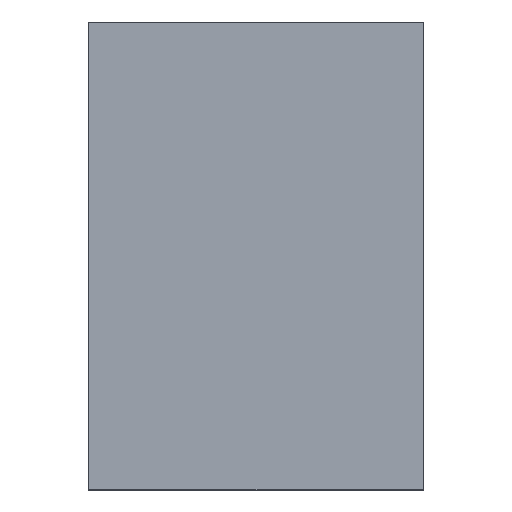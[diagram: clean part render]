
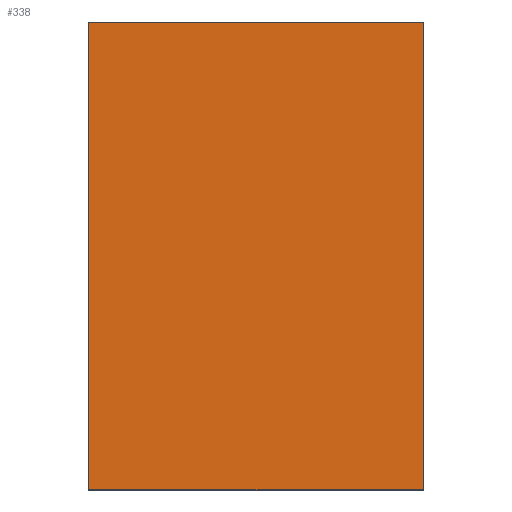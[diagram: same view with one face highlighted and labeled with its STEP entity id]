
A CAD part, top view. The second image highlights one B-rep face of the part: STEP entity #338.
In plain terms, the highlighted planar face has unit normal (0, 0, 1).
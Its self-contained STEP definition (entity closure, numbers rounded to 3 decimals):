
#24 = VERTEX_POINT('',#25);
#25 = CARTESIAN_POINT('',(106.5,96.913,249.));
#32 = PLANE('',#33);
#33 = AXIS2_PLACEMENT_3D('',#34,#35,#36);
#34 = CARTESIAN_POINT('',(106.5,96.913,229.));
#35 = DIRECTION('',(1.,0.,-0.));
#36 = DIRECTION('',(0.,0.,1.));
#44 = PLANE('',#45);
#45 = AXIS2_PLACEMENT_3D('',#46,#47,#48);
#46 = CARTESIAN_POINT('',(106.5,96.913,229.));
#47 = DIRECTION('',(-0.,1.,0.));
#48 = DIRECTION('',(0.,0.,1.));
#85 = VERTEX_POINT('',#86);
#86 = CARTESIAN_POINT('',(106.5,138.913,249.));
#100 = PLANE('',#101);
#101 = AXIS2_PLACEMENT_3D('',#102,#103,#104);
#102 = CARTESIAN_POINT('',(106.5,138.913,229.));
#103 = DIRECTION('',(-0.,1.,0.));
#104 = DIRECTION('',(0.,0.,1.));
#112 = EDGE_CURVE('',#24,#85,#113,.T.);
#113 = SURFACE_CURVE('',#114,(#118,#125),.PCURVE_S1.);
#114 = LINE('',#115,#116);
#115 = CARTESIAN_POINT('',(106.5,96.913,249.));
#116 = VECTOR('',#117,1.);
#117 = DIRECTION('',(-0.,1.,0.));
#118 = PCURVE('',#32,#119);
#119 = DEFINITIONAL_REPRESENTATION('',(#120),#124);
#120 = LINE('',#121,#122);
#121 = CARTESIAN_POINT('',(20.,0.));
#122 = VECTOR('',#123,1.);
#123 = DIRECTION('',(0.,-1.));
#124 = ( GEOMETRIC_REPRESENTATION_CONTEXT(2) 
PARAMETRIC_REPRESENTATION_CONTEXT() REPRESENTATION_CONTEXT('2D SPACE',''
  ) );
#125 = PCURVE('',#126,#131);
#126 = PLANE('',#127);
#127 = AXIS2_PLACEMENT_3D('',#128,#129,#130);
#128 = CARTESIAN_POINT('',(106.5,96.913,249.));
#129 = DIRECTION('',(0.,0.,1.));
#130 = DIRECTION('',(1.,0.,-0.));
#131 = DEFINITIONAL_REPRESENTATION('',(#132),#136);
#132 = LINE('',#133,#134);
#133 = CARTESIAN_POINT('',(0.,0.));
#134 = VECTOR('',#135,1.);
#135 = DIRECTION('',(0.,1.));
#136 = ( GEOMETRIC_REPRESENTATION_CONTEXT(2) 
PARAMETRIC_REPRESENTATION_CONTEXT() REPRESENTATION_CONTEXT('2D SPACE',''
  ) );
#144 = VERTEX_POINT('',#145);
#145 = CARTESIAN_POINT('',(136.5,96.913,249.));
#152 = PLANE('',#153);
#153 = AXIS2_PLACEMENT_3D('',#154,#155,#156);
#154 = CARTESIAN_POINT('',(136.5,96.913,229.));
#155 = DIRECTION('',(1.,0.,-0.));
#156 = DIRECTION('',(0.,0.,1.));
#195 = VERTEX_POINT('',#196);
#196 = CARTESIAN_POINT('',(136.5,138.913,249.));
#217 = EDGE_CURVE('',#144,#195,#218,.T.);
#218 = SURFACE_CURVE('',#219,(#223,#230),.PCURVE_S1.);
#219 = LINE('',#220,#221);
#220 = CARTESIAN_POINT('',(136.5,96.913,249.));
#221 = VECTOR('',#222,1.);
#222 = DIRECTION('',(-0.,1.,0.));
#223 = PCURVE('',#152,#224);
#224 = DEFINITIONAL_REPRESENTATION('',(#225),#229);
#225 = LINE('',#226,#227);
#226 = CARTESIAN_POINT('',(20.,0.));
#227 = VECTOR('',#228,1.);
#228 = DIRECTION('',(0.,-1.));
#229 = ( GEOMETRIC_REPRESENTATION_CONTEXT(2) 
PARAMETRIC_REPRESENTATION_CONTEXT() REPRESENTATION_CONTEXT('2D SPACE',''
  ) );
#230 = PCURVE('',#126,#231);
#231 = DEFINITIONAL_REPRESENTATION('',(#232),#236);
#232 = LINE('',#233,#234);
#233 = CARTESIAN_POINT('',(30.,0.));
#234 = VECTOR('',#235,1.);
#235 = DIRECTION('',(0.,1.));
#236 = ( GEOMETRIC_REPRESENTATION_CONTEXT(2) 
PARAMETRIC_REPRESENTATION_CONTEXT() REPRESENTATION_CONTEXT('2D SPACE',''
  ) );
#263 = EDGE_CURVE('',#24,#144,#264,.T.);
#264 = SURFACE_CURVE('',#265,(#269,#276),.PCURVE_S1.);
#265 = LINE('',#266,#267);
#266 = CARTESIAN_POINT('',(106.5,96.913,249.));
#267 = VECTOR('',#268,1.);
#268 = DIRECTION('',(1.,0.,-0.));
#269 = PCURVE('',#44,#270);
#270 = DEFINITIONAL_REPRESENTATION('',(#271),#275);
#271 = LINE('',#272,#273);
#272 = CARTESIAN_POINT('',(20.,0.));
#273 = VECTOR('',#274,1.);
#274 = DIRECTION('',(0.,1.));
#275 = ( GEOMETRIC_REPRESENTATION_CONTEXT(2) 
PARAMETRIC_REPRESENTATION_CONTEXT() REPRESENTATION_CONTEXT('2D SPACE',''
  ) );
#276 = PCURVE('',#126,#277);
#277 = DEFINITIONAL_REPRESENTATION('',(#278),#282);
#278 = LINE('',#279,#280);
#279 = CARTESIAN_POINT('',(0.,0.));
#280 = VECTOR('',#281,1.);
#281 = DIRECTION('',(1.,0.));
#282 = ( GEOMETRIC_REPRESENTATION_CONTEXT(2) 
PARAMETRIC_REPRESENTATION_CONTEXT() REPRESENTATION_CONTEXT('2D SPACE',''
  ) );
#310 = EDGE_CURVE('',#85,#195,#311,.T.);
#311 = SURFACE_CURVE('',#312,(#316,#323),.PCURVE_S1.);
#312 = LINE('',#313,#314);
#313 = CARTESIAN_POINT('',(106.5,138.913,249.));
#314 = VECTOR('',#315,1.);
#315 = DIRECTION('',(1.,0.,-0.));
#316 = PCURVE('',#100,#317);
#317 = DEFINITIONAL_REPRESENTATION('',(#318),#322);
#318 = LINE('',#319,#320);
#319 = CARTESIAN_POINT('',(20.,0.));
#320 = VECTOR('',#321,1.);
#321 = DIRECTION('',(0.,1.));
#322 = ( GEOMETRIC_REPRESENTATION_CONTEXT(2) 
PARAMETRIC_REPRESENTATION_CONTEXT() REPRESENTATION_CONTEXT('2D SPACE',''
  ) );
#323 = PCURVE('',#126,#324);
#324 = DEFINITIONAL_REPRESENTATION('',(#325),#329);
#325 = LINE('',#326,#327);
#326 = CARTESIAN_POINT('',(0.,42.));
#327 = VECTOR('',#328,1.);
#328 = DIRECTION('',(1.,0.));
#329 = ( GEOMETRIC_REPRESENTATION_CONTEXT(2) 
PARAMETRIC_REPRESENTATION_CONTEXT() REPRESENTATION_CONTEXT('2D SPACE',''
  ) );
#338 = ADVANCED_FACE('',(#339),#126,.T.);
#339 = FACE_BOUND('',#340,.T.);
#340 = EDGE_LOOP('',(#341,#342,#343,#344));
#341 = ORIENTED_EDGE('',*,*,#112,.F.);
#342 = ORIENTED_EDGE('',*,*,#263,.T.);
#343 = ORIENTED_EDGE('',*,*,#217,.T.);
#344 = ORIENTED_EDGE('',*,*,#310,.F.);
